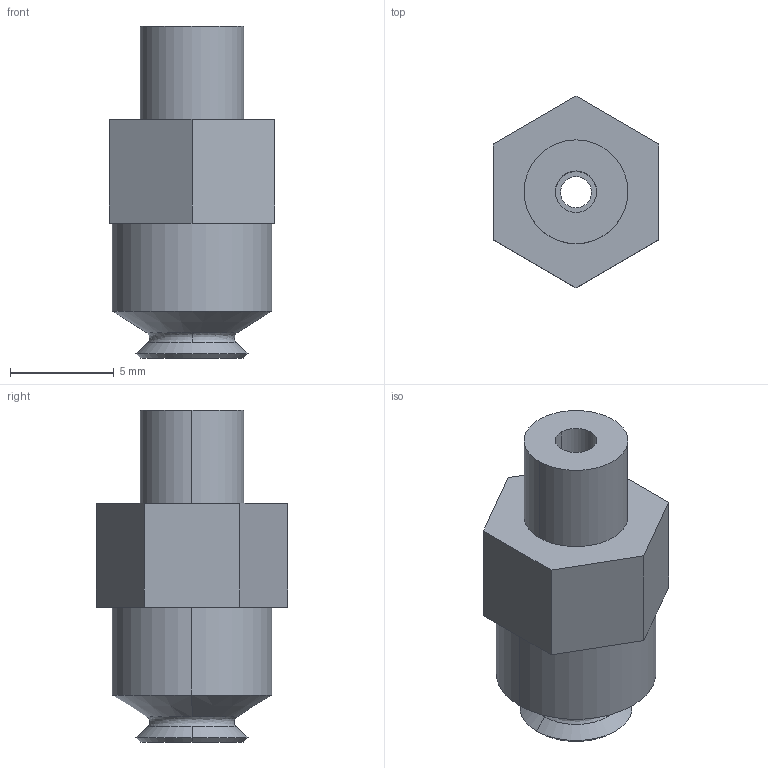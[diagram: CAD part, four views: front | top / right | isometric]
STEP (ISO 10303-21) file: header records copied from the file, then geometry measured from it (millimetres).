
FILE_DESCRIPTION (( 'STEP AP203' ), '1' );
FILE_NAME ('PFYN-5-NBR-55.STEP', '2024-02-29T06:27:07', ( '微软用户' ), ( '微软中国' ), 'SwSTEP 2.0', 'SolidWorks 2018', '' );
FILE_SCHEMA (( 'CONFIG_CONTROL_DESIGN' ));
Length unit declared in the file: millimetre
Products named in the file (3): PFYN-5-NBR-55; 1_2; 1
Assembly tree (2 placements, depth 2):
  PFYN-5-NBR-55
    1
    1_2
Bounding box: 8 x 9.24 x 16 mm (x, y, z)
Volume: 552.2 mm3; surface area: 810.9 mm2
Topology: 2 solids, 2 shells, 42 faces, 92 edges, 58 vertices
Faces by surface type: cylinder 16, plane 14, cone 10, bspline 2
Entity records: 1499 total; most frequent: DIRECTION 230, CARTESIAN_POINT 227, ORIENTED_EDGE 184, AXIS2_PLACEMENT_3D 93, EDGE_CURVE 92, VERTEX_POINT 58, EDGE_LOOP 50, CIRCLE 48
